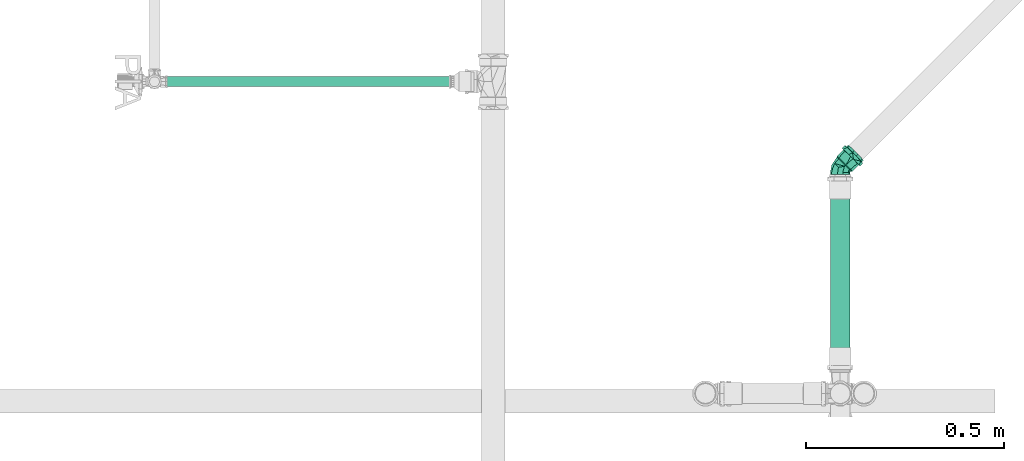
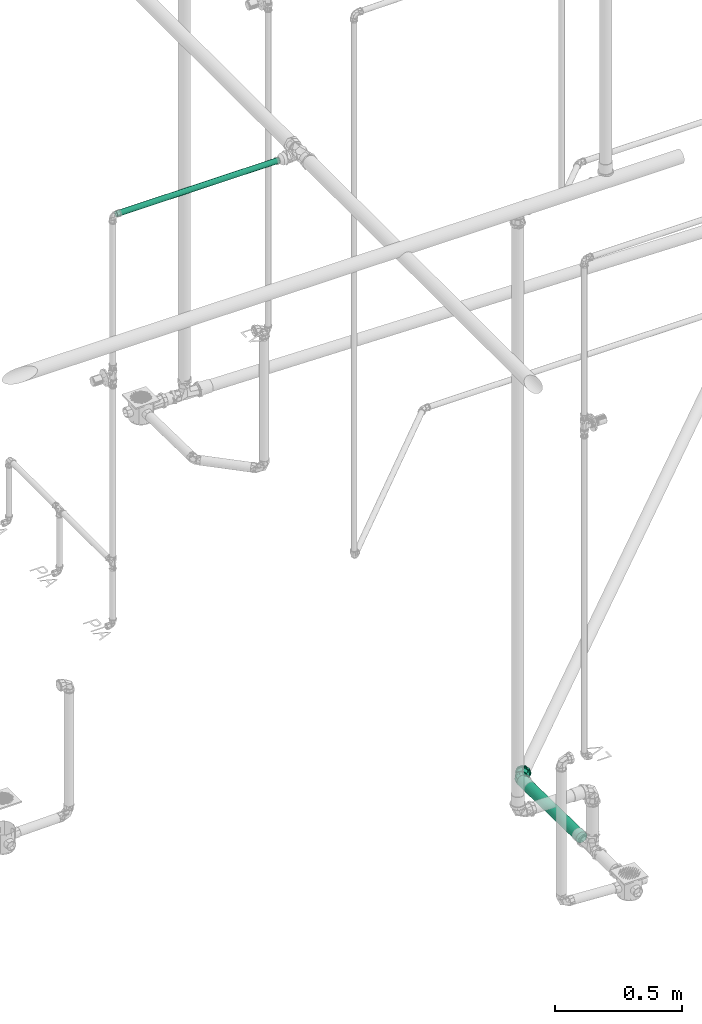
# One storey, part 127 of 589: 2 flow segments, 1 flow fitting.
"""IFC2X3 building model written with IfcOpenShell, lengths in millimetres."""

from ifc_helpers import new_model, entity, si_unit, converted_unit, derived_unit, direction, frame, frame_2d, origin, place, context, subcontext, project, spatial, circle, extrude, faceted_brep, source, transform, mapped, material, type_object, type_shapes, element, save


model = new_model("IFC2X3")

# Units and contexts
model_context = context("Model", 3, precision=0.01, world=origin(), true_north=direction((6.123031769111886e-17, 1.0)))
body_context = subcontext(model_context, "Body", "Model", "MODEL_VIEW")
ifc_project = project(units=[si_unit("LENGTHUNIT", "METRE", prefix="MILLI"), si_unit("AREAUNIT", "SQUARE_METRE"), si_unit("VOLUMEUNIT", "CUBIC_METRE"), converted_unit("PLANEANGLEUNIT", "DEGREE", entity("IfcRatioMeasure", 0.017453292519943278), si_unit("PLANEANGLEUNIT", "RADIAN"), dimensions=[0, 0, 0, 0, 0, 0, 0]), si_unit("MASSUNIT", "GRAM", prefix="KILO"), derived_unit("MASSDENSITYUNIT", [(si_unit("MASSUNIT", "GRAM", prefix="KILO"), 1), (si_unit("LENGTHUNIT", "METRE"), -3)]), derived_unit("IONCONCENTRATIONUNIT", [(si_unit("MASSUNIT", "GRAM", prefix="KILO"), 1), (si_unit("LENGTHUNIT", "METRE"), -3)]), derived_unit("MOMENTOFINERTIAUNIT", [(si_unit("LENGTHUNIT", "METRE"), 4)]), si_unit("TIMEUNIT", "SECOND"), si_unit("FREQUENCYUNIT", "HERTZ"), si_unit("THERMODYNAMICTEMPERATUREUNIT", "DEGREE_CELSIUS"), derived_unit("THERMALTRANSMITTANCEUNIT", [(si_unit("MASSUNIT", "GRAM", prefix="KILO"), 1), (si_unit("THERMODYNAMICTEMPERATUREUNIT", "KELVIN"), -1), (si_unit("TIMEUNIT", "SECOND"), -3)]), derived_unit("THERMALCONDUCTANCEUNIT", [(si_unit("MASSUNIT", "GRAM", prefix="KILO"), 1), (si_unit("THERMODYNAMICTEMPERATUREUNIT", "KELVIN"), -1), (si_unit("TIMEUNIT", "SECOND"), -3), (si_unit("LENGTHUNIT", "METRE"), 1)]), derived_unit("VOLUMETRICFLOWRATEUNIT", [(si_unit("LENGTHUNIT", "METRE"), 3), (si_unit("TIMEUNIT", "SECOND"), -1)]), derived_unit("MASSFLOWRATEUNIT", [(si_unit("MASSUNIT", "GRAM", prefix="KILO"), 1), (si_unit("TIMEUNIT", "SECOND"), -1)]), derived_unit("ROTATIONALFREQUENCYUNIT", [(si_unit("TIMEUNIT", "SECOND"), -1)]), si_unit("ELECTRICCURRENTUNIT", "AMPERE"), si_unit("ELECTRICVOLTAGEUNIT", "VOLT"), si_unit("POWERUNIT", "WATT"), si_unit("FORCEUNIT", "NEWTON", prefix="KILO"), si_unit("ILLUMINANCEUNIT", "LUX"), si_unit("LUMINOUSFLUXUNIT", "LUMEN"), si_unit("LUMINOUSINTENSITYUNIT", "CANDELA"), derived_unit("USERDEFINED", [(si_unit("MASSUNIT", "GRAM", prefix="KILO"), -1), (si_unit("LENGTHUNIT", "METRE"), -2), (si_unit("TIMEUNIT", "SECOND"), 3), (si_unit("LUMINOUSFLUXUNIT", "LUMEN"), 1)]), derived_unit("USERDEFINED", [(si_unit("MASSUNIT", "GRAM", prefix="KILO"), 1), (si_unit("TIMEUNIT", "SECOND"), -3), (si_unit("LENGTHUNIT", "METRE"), 3), (si_unit("ELECTRICCURRENTUNIT", "AMPERE"), -2)]), derived_unit("SOUNDPOWERUNIT", [(si_unit("MASSUNIT", "GRAM", prefix="KILO"), 1), (si_unit("TIMEUNIT", "SECOND"), -3), (si_unit("LENGTHUNIT", "METRE"), 2)]), derived_unit("SOUNDPRESSUREUNIT", [(si_unit("MASSUNIT", "GRAM", prefix="KILO"), 1), (si_unit("LENGTHUNIT", "METRE"), -1), (si_unit("TIMEUNIT", "SECOND"), -2)]), derived_unit("LINEARVELOCITYUNIT", [(si_unit("LENGTHUNIT", "METRE"), 1), (si_unit("TIMEUNIT", "SECOND"), -1)]), si_unit("PRESSUREUNIT", "PASCAL"), derived_unit("USERDEFINED", [(si_unit("MASSUNIT", "GRAM", prefix="KILO"), 1), (si_unit("LENGTHUNIT", "METRE"), -2), (si_unit("TIMEUNIT", "SECOND"), -2)]), derived_unit("LINEARFORCEUNIT", [(si_unit("MASSUNIT", "GRAM", prefix="KILO"), 1), (si_unit("TIMEUNIT", "SECOND"), -2)]), derived_unit("PLANARFORCEUNIT", [(si_unit("MASSUNIT", "GRAM", prefix="KILO"), 1), (si_unit("LENGTHUNIT", "METRE"), -1), (si_unit("TIMEUNIT", "SECOND"), -2)]), derived_unit("SPECIFICHEATCAPACITYUNIT", [(si_unit("THERMODYNAMICTEMPERATUREUNIT", "KELVIN"), -1), (si_unit("LENGTHUNIT", "METRE"), 2), (si_unit("TIMEUNIT", "SECOND"), -2)]), derived_unit("HEATINGVALUEUNIT", [(si_unit("LENGTHUNIT", "METRE"), 2), (si_unit("TIMEUNIT", "SECOND"), -2)]), derived_unit("VAPORPERMEABILITYUNIT", [(si_unit("LENGTHUNIT", "METRE"), -1), (si_unit("TIMEUNIT", "SECOND"), 1)]), derived_unit("DYNAMICVISCOSITYUNIT", [(si_unit("MASSUNIT", "GRAM", prefix="KILO"), 1), (si_unit("TIMEUNIT", "SECOND"), -1), (si_unit("LENGTHUNIT", "METRE"), -1)]), derived_unit("THERMALEXPANSIONCOEFFICIENTUNIT", [(si_unit("THERMODYNAMICTEMPERATUREUNIT", "KELVIN"), -1)]), derived_unit("MODULUSOFELASTICITYUNIT", [(si_unit("MASSUNIT", "GRAM", prefix="KILO"), 1), (si_unit("LENGTHUNIT", "METRE"), -1), (si_unit("TIMEUNIT", "SECOND"), -2)]), derived_unit("ISOTHERMALMOISTURECAPACITYUNIT", [(si_unit("LENGTHUNIT", "METRE"), 3), (si_unit("MASSUNIT", "GRAM", prefix="KILO"), -1)]), derived_unit("MOISTUREDIFFUSIVITYUNIT", [(si_unit("TIMEUNIT", "SECOND"), -1), (si_unit("LENGTHUNIT", "METRE"), 2)])], contexts=[model_context])

# Site, building, storey
site_placement = place(None, origin())
site = spatial("IfcSite", under=ifc_project, at=site_placement, Name="Default", CompositionType="ELEMENT")
building_placement = place(site_placement, origin())
building = spatial("IfcBuilding", under=site, at=building_placement, CompositionType="ELEMENT")
storey_placement = place(building_placement, frame((0.0, 0.0, 100.0)))
storey = spatial("IfcBuildingStorey", under=building, at=storey_placement, Name="TÉRREO", CompositionType="ELEMENT", Elevation=100.0)

# Flow segments
pipe_segment_type_1 = type_object("IfcPipeSegmentType", Name="Tipos de tubos:PVC Esgoto Série Normal", PredefinedType="NOTDEFINED")
flow_segment_1_placement = place(storey_placement, origin())
element("IfcFlowSegment", 1, at=flow_segment_1_placement, inside=storey, type_object=pipe_segment_type_1, Name="Tipos de tubos:PVC Esgoto Série Normal", ObjectType="Tipos de tubos:PVC Esgoto Série Normal", context=body_context, shape_type="SweptSolid", body=[
    extrude(circle(Radius=25.0, at=frame_2d((0.0, -3.383283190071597e-14), x_axis=(1.0, 0.0))), frame((4920.934778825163, -423.44876109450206, -204.9838477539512), z_axis=(0.0, 0.999800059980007, -0.019996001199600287), x_axis=(1.0, 0.0, 0.0)), (0.0, 0.0, 1.0), 466.60600218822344),
])
pipe_segment_type_2 = type_object("IfcPipeSegmentType", Name="Tipos de tubos:PVC Marrom Soldável", PredefinedType="NOTDEFINED")
flow_segment_2_placement = place(storey_placement, origin())
element("IfcFlowSegment", 2, at=flow_segment_2_placement, inside=storey, type_object=pipe_segment_type_2, Name="Tipos de tubos:PVC Marrom Soldável", ObjectType="Tipos de tubos:PVC Marrom Soldável", context=body_context, shape_type="SweptSolid", body=[
    extrude(circle(Radius=12.5, at=frame_2d((3.383959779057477e-14, -5.414335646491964e-13), x_axis=(1.0, 0.0))), frame((3206.579797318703, 277.31812904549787, 2970.0), z_axis=(1.0, 0.0, 0.0), x_axis=(0.0, -1.0, 0.0)), (0.0, 0.0, 1.0), 740.2360709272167),
])

# Flow fitting
ifc_material = material(Name="PVC Série Normal")
pipe_fitting_type = type_object("IfcPipeFittingType", Name="PVC Esgoto_Joelho 45_90_Rodrigo MEP:a. Série Normal", PredefinedType="NOTDEFINED", material=ifc_material)
shared_shape = source(origin(), body_context, "Body", "Brep", [
    faceted_brep([(-7.692074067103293, 22.924025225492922, 12.500000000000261), (-10.060040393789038, 25.29277610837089, 0.0), (-7.692074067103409, 22.92402522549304, -12.499999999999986), (3.0401412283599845, 12.188254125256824, -24.1481456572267), (12.189260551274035, 3.0361035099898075, -24.148145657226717), (22.92147584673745, -7.699667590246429, -12.500000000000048), (25.289442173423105, -10.068418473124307, 0.0), (22.921475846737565, -7.699667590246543, 12.499999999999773), (12.18926055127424, 3.0361035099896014, 24.148145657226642), (3.0401412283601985, 12.188254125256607, 24.14814565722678), (28.967006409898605, -6.3920722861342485, 0.0), (26.599040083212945, -4.023321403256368, -12.500000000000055), (15.86682478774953, 6.712449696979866, -24.148145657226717), (6.717705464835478, 15.864600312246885, -24.148145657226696), (-4.014509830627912, 26.600371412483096, -12.499999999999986), (-6.382476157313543, 28.969122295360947, 0.0), (-4.0145098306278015, 26.600371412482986, 12.500000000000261), (6.717705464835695, 15.86460031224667, 24.14814565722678), (15.866824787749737, 6.712449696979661, 24.148145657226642), (26.599040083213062, -4.023321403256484, 12.499999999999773)], [[[0, 1, 2, 3, 4, 5, 6, 7, 8, 9]], [[10, 11, 12, 13, 14, 15, 16, 17, 18, 19]], [[6, 10, 19, 7]], [[7, 19, 18, 8]], [[18, 17, 9, 8]], [[9, 17, 16, 0]], [[0, 16, 15, 1]], [[1, 15, 14, 2]], [[2, 14, 13, 3]], [[13, 12, 4, 3]], [[4, 12, 11, 5]], [[5, 11, 10, 6]]]),
    faceted_brep([(-55.967030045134, -6.988114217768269, -26.07999730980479), (-55.967030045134, -6.47047612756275, -24.14814565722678), (-55.967030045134, 6.4704761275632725, -24.148145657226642), (-55.967030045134, -23.382685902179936, -13.499999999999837), (-55.967030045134, 6.988114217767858, -26.0799973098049), (-55.967030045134, -21.650635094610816, -12.500000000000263), (-55.967030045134, -25.0, 0.0), (-55.967030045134, -27.0, 0.0), (-55.967030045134, -21.650635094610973, 12.499999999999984), (-55.967030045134, -23.382685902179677, 13.500000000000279), (-55.967030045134, -6.470476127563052, 24.1481456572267), (-55.967030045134, -6.98811421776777, 26.079997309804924), (-55.967030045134, 6.470476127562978, 24.14814565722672), (-55.967030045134, 6.988114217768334, 26.07999730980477), (-55.967030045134, 21.650635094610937, 12.500000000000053), (-55.967030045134, 23.38268590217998, 13.499999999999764), (-55.967030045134, 27.0, 0.0), (-55.967030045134, 25.0, 0.0), (-55.967030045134, 23.382685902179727, -13.500000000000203), (-55.967030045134, 21.6506350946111, -12.499999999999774), (-15.967030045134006, 21.650635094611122, -12.499999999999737), (-15.967030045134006, 25.0, 0.0), (-15.967030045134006, 6.4704761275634, -24.148145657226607), (-15.967030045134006, -6.470476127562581, -24.148145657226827), (-15.967030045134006, -21.650635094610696, -12.500000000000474), (-15.967030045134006, -25.0, 0.0), (-15.967030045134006, -21.65063509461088, 12.500000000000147), (-15.967030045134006, -6.470476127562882, 24.14814565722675), (-15.967030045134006, 6.470476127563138, 24.148145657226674), (-15.967030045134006, 21.650635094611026, 12.499999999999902), (-15.967030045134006, 27.0, 0.0), (-15.967030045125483, 20.682232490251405, 17.356418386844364), (-15.967030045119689, 4.685536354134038, 26.59033187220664), (-15.967030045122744, -20.686585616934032, 17.35122979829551), (-15.967030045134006, -27.0, 0.0), (-15.96703004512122, -8.000524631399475, 21.970780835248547), (-15.96703004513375, -20.686585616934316, -17.35122979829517), (-15.967030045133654, -4.6922062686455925, -26.589155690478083), (-15.967030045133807, 20.682232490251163, -17.356418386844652), (-15.967030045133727, 7.995013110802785, -21.972787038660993), (-13.76703004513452, -4.338459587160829, -24.620677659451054), (-13.767030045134, 25.0, 0.0), (-13.76703004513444, 19.154245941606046, -16.065953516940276), (-13.767030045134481, 7.40789317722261, -20.34331558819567), (-13.7670300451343, -19.15021526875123, -16.07075776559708), (-13.767030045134, -25.0, 0.0), (-13.767030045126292, -19.150215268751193, 16.070757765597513), (-13.767030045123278, -7.402789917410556, 20.34517318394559), (-13.767030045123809, 19.154245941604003, 16.065953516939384), (-13.767030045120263, 4.344635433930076, 24.619588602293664), (-10.767030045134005, 25.0, 0.0), (-10.767030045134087, 19.151286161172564, 16.069481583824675), (-10.767030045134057, 4.341396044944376, 24.62016003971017), (-10.767030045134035, -7.404832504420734, 20.344954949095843), (-10.767030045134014, -19.15106105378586, 16.069749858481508), (-10.767030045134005, -25.0, 0.0), (-10.767030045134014, -19.15106105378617, -16.069749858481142), (-10.767030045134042, -4.341051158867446, -24.62022085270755), (-10.767030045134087, 19.15128616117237, -16.069481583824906), (-10.767030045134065, 7.405117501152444, -20.344851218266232), (25.289442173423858, -10.068418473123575, 0.0), (22.9214758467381, -7.699667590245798, -12.500000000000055), (12.189260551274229, 3.0361035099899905, -24.14814565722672), (3.0401412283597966, 12.188254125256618, -24.1481456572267), (-7.692074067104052, 22.92402522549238, -12.499999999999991), (-10.060040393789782, 25.292776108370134, 0.0), (-7.692074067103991, 22.924025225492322, 12.500000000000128), (3.040141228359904, 12.188254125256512, 24.14814565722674), (12.189260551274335, 3.036103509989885, 24.148145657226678), (22.92147584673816, -7.699667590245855, 12.499999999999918), (1.7065644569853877, -18.23155710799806, 15.05751816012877), (8.745922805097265, -21.119472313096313, 0.0), (12.768205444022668, -13.650820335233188, 14.852748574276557), (-3.6046282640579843, -23.575618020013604, 0.0), (2.158847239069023, -4.459785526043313, 23.973885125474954), (-10.384423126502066, 25.076088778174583, 0.0), (19.21699707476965, -14.124805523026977, 0.0), (12.764718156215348, -13.647838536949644, -14.858628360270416), (2.1213265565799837, -4.514353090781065, -23.9633231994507), (1.756380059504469, -18.2440512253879, -15.023571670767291)], [[[0, 1, 2]], [[1, 0, 3]], [[2, 4, 0]], [[3, 5, 1]], [[3, 6, 5]], [[6, 3, 7]], [[8, 6, 7]], [[8, 7, 9]], [[9, 10, 8]], [[9, 11, 10]], [[10, 11, 12]], [[13, 12, 11]], [[13, 14, 12]], [[14, 13, 15]], [[16, 14, 15]], [[17, 14, 16]], [[18, 17, 16]], [[18, 19, 17]], [[19, 18, 4]], [[4, 2, 19]], [[20, 21, 17, 19]], [[22, 20, 19, 2]], [[2, 1, 23, 22]], [[24, 23, 1, 5]], [[25, 24, 5, 6]], [[26, 25, 6, 8]], [[27, 26, 8, 10]], [[10, 12, 28, 27]], [[29, 28, 12, 14]], [[21, 29, 14, 17]], [[16, 15, 30]], [[15, 31, 30]], [[31, 15, 13]], [[31, 13, 32]], [[33, 11, 9]], [[34, 9, 7]], [[11, 33, 35, 32]], [[33, 9, 34]], [[11, 32, 13]], [[7, 3, 34]], [[3, 36, 34]], [[36, 3, 0]], [[36, 0, 37]], [[38, 4, 18]], [[30, 18, 16]], [[4, 38, 39, 37]], [[38, 18, 30]], [[4, 37, 0]], [[28, 29, 21, 20, 22, 23, 24, 25, 26, 27]], [[39, 40, 37]], [[41, 42, 30]], [[30, 42, 38]], [[38, 43, 39]], [[44, 45, 36]], [[38, 42, 43]], [[36, 37, 44]], [[34, 36, 45]], [[40, 39, 43]], [[44, 37, 40]], [[45, 46, 33]], [[33, 34, 45]], [[46, 35, 33]], [[46, 47, 35]], [[47, 32, 35]], [[48, 41, 30]], [[48, 31, 49]], [[31, 48, 30]], [[32, 47, 49]], [[49, 31, 32]], [[41, 48, 50]], [[48, 51, 50]], [[51, 48, 49]], [[51, 49, 52]], [[52, 47, 53]], [[46, 54, 53]], [[46, 45, 54]], [[49, 47, 52]], [[54, 45, 55]], [[47, 46, 53]], [[45, 44, 56]], [[45, 56, 55]], [[56, 44, 57]], [[58, 59, 43]], [[44, 40, 57]], [[40, 59, 57]], [[58, 43, 42]], [[42, 50, 58]], [[50, 42, 41]], [[59, 40, 43]], [[60, 61, 62, 63, 64, 65, 66, 67, 68, 69]], [[51, 52, 67]], [[70, 71, 72]], [[54, 55, 73]], [[70, 72, 74]], [[50, 66, 75]], [[51, 66, 50]], [[52, 70, 74]], [[76, 60, 69]], [[71, 70, 73]], [[72, 76, 69]], [[73, 70, 54]], [[76, 72, 71]], [[68, 72, 69]], [[75, 66, 65]], [[70, 52, 53, 54]], [[52, 74, 67]], [[67, 66, 51]], [[68, 74, 72]], [[68, 67, 74]], [[61, 76, 77]], [[73, 55, 56]], [[78, 58, 63]], [[78, 57, 59, 58]], [[79, 73, 56]], [[57, 78, 79]], [[62, 77, 78]], [[58, 50, 64]], [[75, 65, 64]], [[57, 79, 56]], [[61, 60, 76]], [[64, 63, 58]], [[79, 78, 77]], [[62, 61, 77]], [[76, 71, 77]], [[73, 79, 71]], [[79, 77, 71]], [[63, 62, 78]], [[64, 50, 75]]]),
    faceted_brep([(-38.96703004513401, 6.9881142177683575, -26.07999730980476), (-38.96703004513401, -6.988114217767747, -26.079997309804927), (-38.96703004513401, -8.282209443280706, -30.909626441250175), (-38.96703004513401, 8.28220944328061, -30.9096264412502), (-38.96703004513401, 23.38268590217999, -13.499999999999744), (-38.96703004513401, -27.712812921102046, -16.0), (-38.96703004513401, -23.38268590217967, -13.500000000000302), (-38.96703004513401, -27.0, 0.0), (-38.96703004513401, -32.0, 0.0), (-38.96703004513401, -23.382685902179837, 13.500000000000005), (-38.96703004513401, -27.712812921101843, 16.0), (-38.96703004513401, -6.988114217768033, 26.07999730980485), (-38.96703004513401, -8.28220944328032, 30.909626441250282), (-38.96703004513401, 6.988114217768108, 26.07999730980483), (-38.96703004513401, 8.282209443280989, 30.909626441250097), (-38.96703004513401, 23.382685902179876, 13.499999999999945), (-38.96703004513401, 27.712812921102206, 16.0), (-38.96703004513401, 32.0, 0.0), (-38.96703004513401, 27.0, 0.0), (-38.96703004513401, 27.712812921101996, -16.0), (-48.967030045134, 27.0, 0.0), (-50.26703004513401, 27.0, 0.0), (-48.967030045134, 25.191342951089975, -6.750000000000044), (-48.967030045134, 23.38268590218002, -13.499999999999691), (-48.967030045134, 19.284042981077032, -16.644999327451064), (-48.967030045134, 15.185400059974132, -19.789998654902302), (-48.967030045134, 11.086757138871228, -22.934997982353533), (-48.967030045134, 6.988114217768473, -26.07999730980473), (-48.967030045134, 0.0, -26.079997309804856), (-48.967030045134, -6.988114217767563, -26.079997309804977), (-48.967030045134, -11.086757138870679, -22.934997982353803), (-48.967030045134, -15.185400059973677, -19.789998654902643), (-48.967030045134, -19.284042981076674, -16.644999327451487), (-48.967030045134, -23.382685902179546, -13.50000000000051), (-48.967030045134, -25.191342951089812, -6.750000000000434), (-50.26703004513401, -27.0, 0.0), (-48.967030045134, -27.0, 0.0), (-48.967030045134, -25.19134295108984, 6.750000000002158), (-48.967030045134, -23.382685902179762, 13.500000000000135), (-48.967030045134, -19.284042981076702, 16.64499932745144), (-48.967030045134, -15.185400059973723, 19.7899986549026), (-48.967030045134, -11.086757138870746, 22.934997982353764), (-48.967030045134, -6.988114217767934, 26.079997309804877), (-48.967030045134, 0.0, 26.079997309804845), (-48.967030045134, 6.988114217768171, 26.079997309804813), (-48.967030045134, 11.086757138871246, 22.93499798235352), (-48.967030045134, 15.185400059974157, 19.789998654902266), (-48.967030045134, 19.284042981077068, 16.644999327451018), (-48.967030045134, 23.382685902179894, 13.499999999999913), (-48.967030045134, 25.19134295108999, 6.74999999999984), (-48.967030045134, 32.0, 0.0), (-48.9670300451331, 24.512275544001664, 20.570569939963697), (-48.96703004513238, -5.561133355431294, 31.51307341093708), (-48.9670300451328, -24.51743480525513, 20.56442050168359), (-48.967030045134, -32.0, 0.0), (-48.96703004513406, -24.51743480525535, -20.564420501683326), (-48.96703004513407, 5.553228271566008, -31.514467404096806), (-48.96703004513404, 24.512275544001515, -20.570569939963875), (-50.267030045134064, -23.84329280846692, -8.675614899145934), (-50.267030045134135, -20.686585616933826, -17.351229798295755), (-50.26703004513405, 23.841116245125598, -8.678209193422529), (-50.2670300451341, 20.6822324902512, -17.356418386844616), (-50.26703004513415, -12.689395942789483, -21.970192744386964), (-50.26703004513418, -4.692206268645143, -26.589155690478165), (-50.26703004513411, 14.338622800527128, -19.664602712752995), (-50.26703004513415, 1.6514034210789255, -24.280971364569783), (-50.267030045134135, 7.995013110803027, -21.97278703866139), (-50.26703004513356, 23.84111624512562, 8.678209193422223), (-50.26703004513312, 20.68223249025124, 17.35641838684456), (-50.267030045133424, -23.843292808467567, 8.675614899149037), (-50.26703004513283, -20.68658561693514, 17.351229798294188), (-50.26703004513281, 12.683884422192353, 21.973375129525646), (-50.267030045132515, 4.685536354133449, 26.590331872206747), (-50.26703004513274, -14.343555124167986, 19.66100531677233), (-50.26703004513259, -1.6574941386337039, 24.280556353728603), (-50.26703004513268, -8.000524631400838, 21.97078083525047)], [[[0, 1, 2]], [[2, 3, 0]], [[4, 0, 3]], [[5, 2, 1]], [[1, 6, 5]], [[6, 7, 5]], [[8, 5, 7]], [[8, 7, 9]], [[10, 8, 9]], [[9, 11, 10]], [[11, 12, 10]], [[13, 12, 11]], [[12, 13, 14]], [[13, 15, 14]], [[16, 14, 15]], [[16, 15, 17]], [[17, 15, 18]], [[18, 4, 19]], [[17, 18, 19]], [[3, 19, 4]], [[4, 18, 20, 21, 22, 23]], [[0, 4, 23, 24, 25, 26, 27]], [[0, 27, 28, 29, 1]], [[6, 1, 29, 30, 31, 32, 33]], [[7, 6, 33, 34, 35, 36]], [[9, 7, 36, 35, 37, 38]], [[11, 9, 38, 39, 40, 41, 42]], [[11, 42, 43, 44, 13]], [[15, 13, 44, 45, 46, 47, 48]], [[18, 15, 48, 49, 21, 20]], [[50, 51, 16]], [[50, 16, 17]], [[16, 51, 14]], [[51, 52, 14]], [[12, 52, 53]], [[10, 53, 54]], [[53, 10, 12]], [[10, 54, 8]], [[52, 12, 14]], [[54, 55, 5]], [[54, 5, 8]], [[5, 55, 2]], [[55, 56, 2]], [[3, 56, 57]], [[19, 57, 50]], [[57, 19, 3]], [[19, 50, 17]], [[56, 3, 2]], [[58, 33, 59]], [[23, 60, 61]], [[32, 31, 59, 33]], [[30, 29, 62, 31]], [[24, 23, 61, 25]], [[29, 28, 63]], [[26, 25, 64]], [[65, 63, 28]], [[31, 62, 59]], [[63, 62, 29]], [[60, 22, 21]], [[34, 58, 35]], [[66, 26, 64]], [[28, 27, 65]], [[27, 66, 65]], [[27, 26, 66]], [[64, 25, 61]], [[34, 33, 58]], [[60, 23, 22]], [[67, 48, 68]], [[38, 69, 70]], [[47, 46, 68, 48]], [[45, 44, 71, 46]], [[39, 38, 70, 40]], [[44, 43, 72]], [[41, 40, 73]], [[74, 72, 43]], [[46, 71, 68]], [[72, 71, 44]], [[69, 37, 35]], [[49, 67, 21]], [[75, 41, 73]], [[43, 42, 74]], [[42, 75, 74]], [[42, 41, 75]], [[73, 40, 70]], [[49, 48, 67]], [[69, 38, 37]], [[54, 35, 58, 59, 55]], [[55, 59, 62, 63]], [[55, 63, 56]], [[57, 61, 60, 21, 50]], [[57, 56, 61]], [[56, 63, 65, 66, 64, 61]], [[50, 21, 67, 68, 51]], [[51, 68, 71, 72]], [[51, 72, 52]], [[53, 70, 69, 35, 54]], [[53, 52, 70]], [[52, 72, 74, 75, 73, 70]]]),
])
type_shapes(pipe_fitting_type, [shared_shape])
flow_fitting_placement = place(storey_placement, frame((4920.934778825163, 59.02778547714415, -214.6333786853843), z_axis=(0.008282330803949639, 0.019995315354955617, 0.9997657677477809), x_axis=(-0.7069654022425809, -0.7069654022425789, 0.01999600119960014)))
element("IfcFlowFitting", 3, at=flow_fitting_placement, inside=storey, type_object=pipe_fitting_type, material=ifc_material, Name="PVC Esgoto_Joelho 45_90_Rodrigo MEP:a. Série Normal", ObjectType="PVC Esgoto_Joelho 45_90_Rodrigo MEP:a. Série Normal", context=body_context, shape_type="MappedRepresentation", body=[
    mapped(shared_shape, transform((0.0, 0.0, 0.0), scale=1.0)),
])

save(model, "model.ifc")
